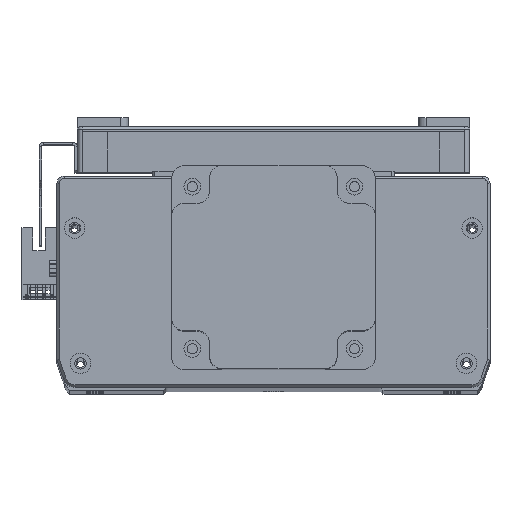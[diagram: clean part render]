
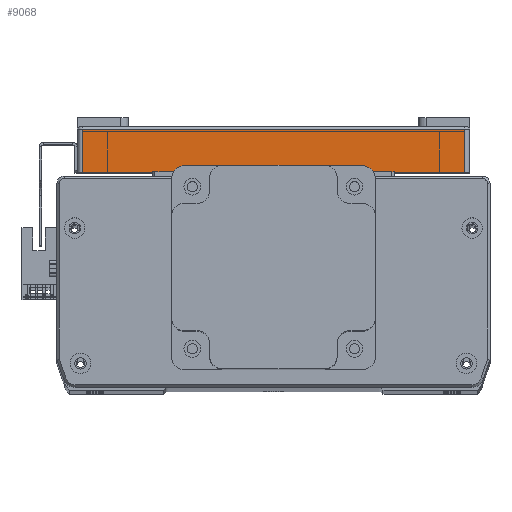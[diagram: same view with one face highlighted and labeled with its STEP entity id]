
A CAD part, top view. The second image highlights one B-rep face of the part: STEP entity #9068.
In plain terms, the highlighted planar face has unit normal (0, 0, 1) as drawn and (-1, 0, 0) by its records, which use the part's own axes.
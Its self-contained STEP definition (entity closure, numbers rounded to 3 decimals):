
#2891 = LINE ( 'NONE', #12267, #2930 ) ;
#2894 = LINE ( 'NONE', #12292, #2898 ) ;
#2898 = VECTOR ( 'NONE', #12312, 1000. ) ;
#2930 = VECTOR ( 'NONE', #12271, 1000. ) ;
#2964 = LINE ( 'NONE', #12305, #3002 ) ;
#3002 = VECTOR ( 'NONE', #12310, 1000. ) ;
#9068 = ADVANCED_FACE ( 'NONE', ( #60393 ), #39052, .F. ) ;
#12161 = CARTESIAN_POINT ( 'NONE',  ( -115., 17., -75. ) ) ;
#12222 = DIRECTION ( 'NONE',  ( 0., 0., -1. ) ) ;
#12267 = CARTESIAN_POINT ( 'NONE',  ( -115., 18., 75. ) ) ;
#12271 = DIRECTION ( 'NONE',  ( 0., 1., 0. ) ) ;
#12292 = CARTESIAN_POINT ( 'NONE',  ( -115., 0., -77. ) ) ;
#12305 = CARTESIAN_POINT ( 'NONE',  ( -115., 18., -75. ) ) ;
#12310 = DIRECTION ( 'NONE',  ( 0., -1., 0. ) ) ;
#12312 = DIRECTION ( 'NONE',  ( 0., 0., 1. ) ) ;
#13169 = EDGE_LOOP ( 'NONE', ( #23093, #23125, #23108, #23135 ) ) ;
#17469 = CARTESIAN_POINT ( 'NONE',  ( -115., 0., 75. ) ) ;
#17476 = CARTESIAN_POINT ( 'NONE',  ( -115., 17., 75. ) ) ;
#17500 = CARTESIAN_POINT ( 'NONE',  ( -115., 17., -75. ) ) ;
#17515 = CARTESIAN_POINT ( 'NONE',  ( -115., 0., -75. ) ) ;
#23093 = ORIENTED_EDGE ( 'NONE', *, *, #42123, .T. ) ;
#23108 = ORIENTED_EDGE ( 'NONE', *, *, #42174, .T. ) ;
#23125 = ORIENTED_EDGE ( 'NONE', *, *, #42065, .T. ) ;
#23135 = ORIENTED_EDGE ( 'NONE', *, *, #42160, .T. ) ;
#23279 = VERTEX_POINT ( 'NONE', #17469 ) ;
#23295 = VERTEX_POINT ( 'NONE', #17500 ) ;
#23309 = VERTEX_POINT ( 'NONE', #17476 ) ;
#23331 = VERTEX_POINT ( 'NONE', #17515 ) ;
#32960 = AXIS2_PLACEMENT_3D ( 'NONE', #39134, #39113, #39102 ) ;
#39052 = PLANE ( 'NONE',  #32960 ) ;
#39102 = DIRECTION ( 'NONE',  ( 0., 0., -1. ) ) ;
#39113 = DIRECTION ( 'NONE',  ( 1., 0., 0. ) ) ;
#39134 = CARTESIAN_POINT ( 'NONE',  ( -115., 18., -77. ) ) ;
#42065 = EDGE_CURVE ( 'NONE', #23309, #23295, #62679, .T. ) ;
#42123 = EDGE_CURVE ( 'NONE', #23279, #23309, #2891, .T. ) ;
#42160 = EDGE_CURVE ( 'NONE', #23331, #23279, #2894, .T. ) ;
#42174 = EDGE_CURVE ( 'NONE', #23295, #23331, #2964, .T. ) ;
#60393 = FACE_OUTER_BOUND ( 'NONE', #13169, .T. ) ;
#62679 = LINE ( 'NONE', #12161, #62725 ) ;
#62725 = VECTOR ( 'NONE', #12222, 1000. ) ;
